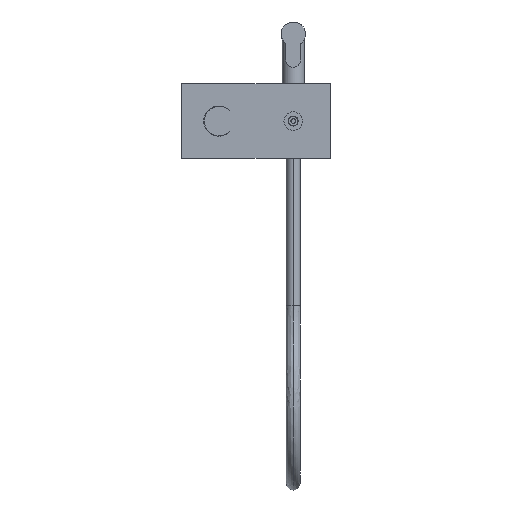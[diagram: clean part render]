
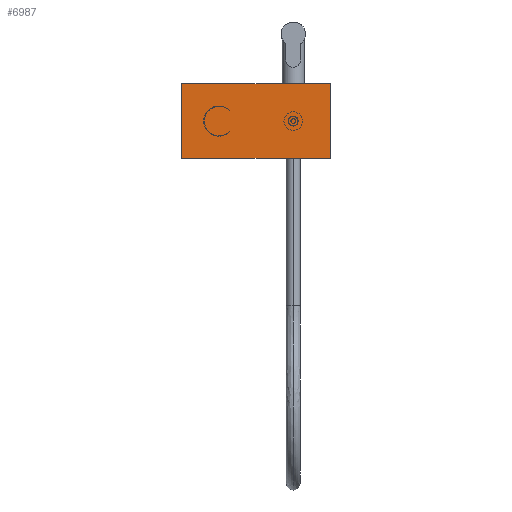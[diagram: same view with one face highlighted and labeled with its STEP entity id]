
A CAD part, front view. The second image highlights one B-rep face of the part: STEP entity #6987.
In plain terms, the highlighted planar face has unit normal (0, -1, 0).
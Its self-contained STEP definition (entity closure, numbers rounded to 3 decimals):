
#66=CARTESIAN_POINT('',(-119.5,48.,-39.5));
#67=DIRECTION('',(0.,-1.,0.));
#68=DIRECTION('',(-1.,0.,0.));
#69=AXIS2_PLACEMENT_3D('',#66,#67,#68);
#71=DIRECTION('',(0.,0.,1.));
#72=VECTOR('',#71,79.);
#73=CARTESIAN_POINT('',(-120.,48.,-39.5));
#74=LINE('',#73,#72);
#75=CARTESIAN_POINT('',(-119.5,48.,39.5));
#76=DIRECTION('',(0.,-1.,0.));
#77=DIRECTION('',(0.,0.,1.));
#78=AXIS2_PLACEMENT_3D('',#75,#76,#77);
#80=DIRECTION('',(1.,0.,0.));
#81=VECTOR('',#80,159.);
#82=CARTESIAN_POINT('',(-119.5,48.,40.));
#83=LINE('',#82,#81);
#84=CARTESIAN_POINT('',(39.5,48.,39.5));
#85=DIRECTION('',(0.,-1.,0.));
#86=DIRECTION('',(1.,0.,0.));
#87=AXIS2_PLACEMENT_3D('',#84,#85,#86);
#89=DIRECTION('',(0.,0.,-1.));
#90=VECTOR('',#89,79.);
#91=CARTESIAN_POINT('',(40.,48.,39.5));
#92=LINE('',#91,#90);
#93=CARTESIAN_POINT('',(39.5,48.,-39.5));
#94=DIRECTION('',(0.,-1.,0.));
#95=DIRECTION('',(0.,0.,-1.));
#96=AXIS2_PLACEMENT_3D('',#93,#94,#95);
#98=DIRECTION('',(-1.,0.,0.));
#99=VECTOR('',#98,159.);
#100=CARTESIAN_POINT('',(39.5,48.,-40.));
#101=LINE('',#100,#99);
#6495=CARTESIAN_POINT('',(-120.,48.,-39.5));
#6496=CARTESIAN_POINT('',(-119.5,48.,-40.));
#6497=VERTEX_POINT('',#6495);
#6498=VERTEX_POINT('',#6496);
#6503=CARTESIAN_POINT('',(39.5,48.,-40.));
#6504=CARTESIAN_POINT('',(40.,48.,-39.5));
#6505=VERTEX_POINT('',#6503);
#6506=VERTEX_POINT('',#6504);
#6511=CARTESIAN_POINT('',(40.,48.,39.5));
#6512=CARTESIAN_POINT('',(39.5,48.,40.));
#6513=VERTEX_POINT('',#6511);
#6514=VERTEX_POINT('',#6512);
#6519=CARTESIAN_POINT('',(-119.5,48.,40.));
#6520=CARTESIAN_POINT('',(-120.,48.,39.5));
#6521=VERTEX_POINT('',#6519);
#6522=VERTEX_POINT('',#6520);
#6965=CARTESIAN_POINT('',(-80.,48.,0.));
#6966=DIRECTION('',(0.,-1.,0.));
#6967=DIRECTION('',(1.,0.,0.));
#6968=AXIS2_PLACEMENT_3D('',#6965,#6966,#6967);
#6969=PLANE('',#6968);
#6970=ORIENTED_EDGE('',*,*,#6955,.F.);
#6972=ORIENTED_EDGE('',*,*,#6971,.T.);
#6974=ORIENTED_EDGE('',*,*,#6973,.F.);
#6976=ORIENTED_EDGE('',*,*,#6975,.T.);
#6978=ORIENTED_EDGE('',*,*,#6977,.F.);
#6980=ORIENTED_EDGE('',*,*,#6979,.T.);
#6982=ORIENTED_EDGE('',*,*,#6981,.F.);
#6984=ORIENTED_EDGE('',*,*,#6983,.T.);
#6985=EDGE_LOOP('',(#6970,#6972,#6974,#6976,#6978,#6980,#6982,#6984));
#6986=FACE_OUTER_BOUND('',#6985,.F.);
#6987=ADVANCED_FACE('',(#6986),#6969,.T.);
#70=CIRCLE('',#69,0.5);
#79=CIRCLE('',#78,0.5);
#88=CIRCLE('',#87,0.5);
#97=CIRCLE('',#96,0.5);
#6955=EDGE_CURVE('',#6497,#6498,#70,.T.);
#6971=EDGE_CURVE('',#6497,#6522,#74,.T.);
#6973=EDGE_CURVE('',#6521,#6522,#79,.T.);
#6975=EDGE_CURVE('',#6521,#6514,#83,.T.);
#6977=EDGE_CURVE('',#6513,#6514,#88,.T.);
#6979=EDGE_CURVE('',#6513,#6506,#92,.T.);
#6981=EDGE_CURVE('',#6505,#6506,#97,.T.);
#6983=EDGE_CURVE('',#6505,#6498,#101,.T.);
